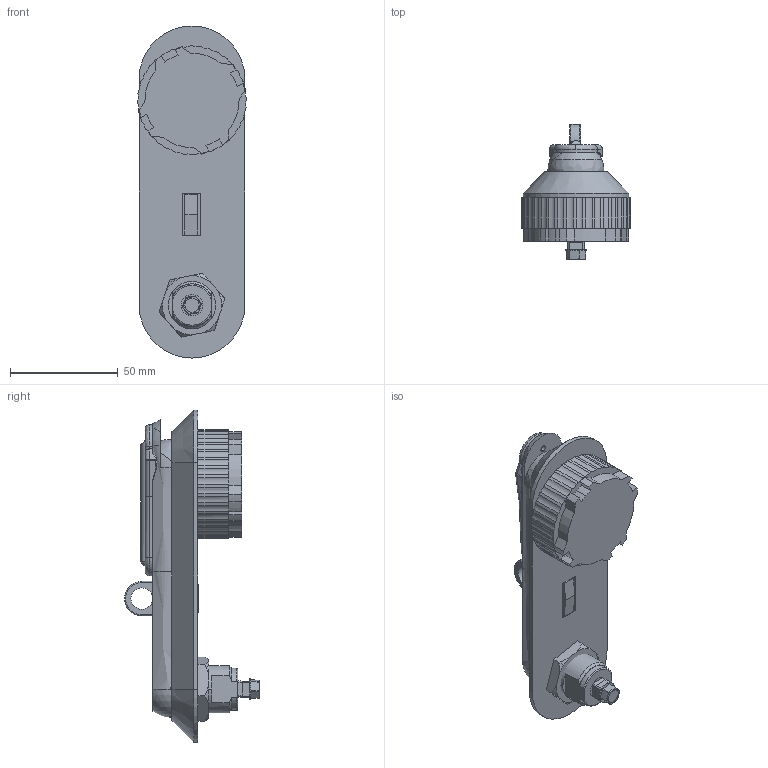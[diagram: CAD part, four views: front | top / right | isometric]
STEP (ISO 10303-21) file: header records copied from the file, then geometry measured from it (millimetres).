
FILE_DESCRIPTION (( 'STEP AP214' ), '1' );
FILE_NAME ('1B.RS400-U.001.STEP', '2012-09-26T10:54:05', ( 'lukasz' ), ( 'ATC' ), 'SwSTEP 2.0', 'SolidWorks 2010', '' );
FILE_SCHEMA (( 'AUTOMOTIVE_DESIGN' ));
Length unit declared in the file: millimetre
Products named in the file (13): O-RING12X2; Zapinka RESS; 1B.RS100.001.06; NAKRETKA M22; 1B.RS100.001.03; 1C.NZN.001.01; M6x8; 1B.RS400.001.05; 1B.RS400-U.001.01_Ucho; 1B.RS400-U.001.02_Default; 1B.RS100-U.002.04_Default; 1B.RS400-U.001; 1B.RS100.001.04
Assembly tree (12 placements, depth 2):
  1B.RS400-U.001
    1B.RS100.001.04
    1B.RS400.001.05
    NAKRETKA M22
    1C.NZN.001.01
    1B.RS100.001.03
    Zapinka RESS
    1B.RS100-U.002.04_Default
    1B.RS400-U.001.02_Default
    O-RING12X2
    1B.RS400-U.001.01_Ucho
    1B.RS100.001.06
    M6x8
Bounding box: 50.5 x 62.6 x 154 mm (x, y, z)
Volume: 100121.7 mm3; surface area: 59265 mm2
Topology: 12 solids, 12 shells, 595 faces, 1571 edges, 1002 vertices
Faces by surface type: cylinder 256, plane 212, bspline 64, cone 35, torus 21, sphere 7
Entity records: 22005 total; most frequent: CARTESIAN_POINT 6239, DIRECTION 3115, ORIENTED_EDGE 3098, EDGE_CURVE 1549, AXIS2_PLACEMENT_3D 1192, VERTEX_POINT 995, VECTOR 731, LINE 731
